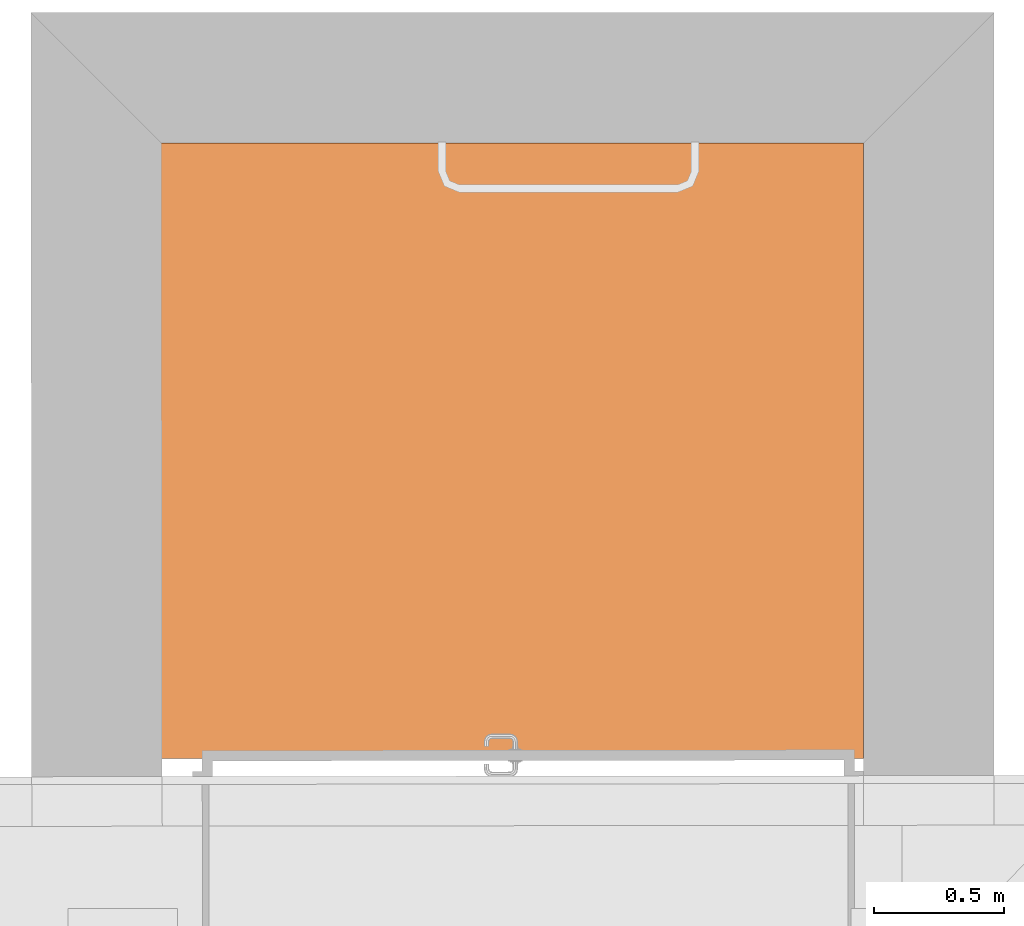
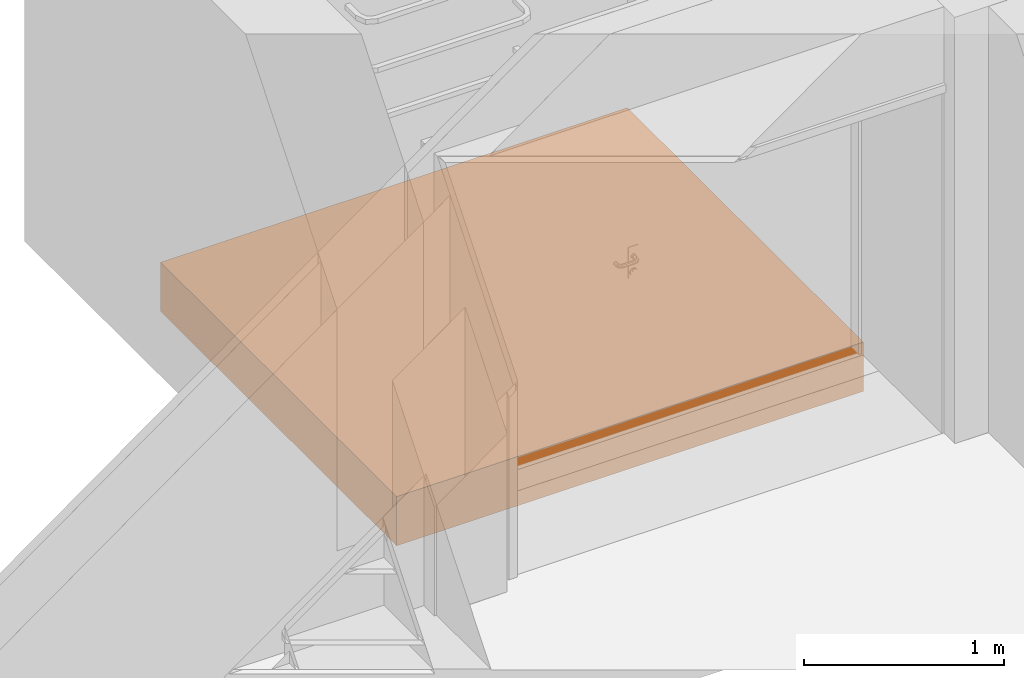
# One storey, part 117 of 127: 1 proxy.
"""IFC2X3 building model written with IfcOpenShell, lengths in millimetres."""

from ifc_helpers import new_model, entity, si_unit, converted_unit, derived_unit, money_unit, direction, frame, origin_with_axes, place, context, subcontext, project, spatial, polyline, outline, extrude, material, type_object, element, save


model = new_model("IFC2X3")

# Units and contexts
model_context = context("Model", 3, precision=1e-05, world=origin_with_axes(), true_north=direction((0.0, 1.0)))
body_context = subcontext(model_context, "Body", "Model", "MODEL_VIEW")
ifc_project = project(units=[si_unit("LENGTHUNIT", "METRE", prefix="MILLI"), si_unit("AREAUNIT", "SQUARE_METRE"), si_unit("VOLUMEUNIT", "CUBIC_METRE"), converted_unit("PLANEANGLEUNIT", "DEGREE", entity("IfcPlaneAngleMeasure", 0.0174532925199), si_unit("PLANEANGLEUNIT", "RADIAN"), dimensions=[0, 0, 0, 0, 0, 0, 0]), si_unit("SOLIDANGLEUNIT", "STERADIAN"), money_unit("EUR"), converted_unit("TIMEUNIT", "Year", entity("IfcTimeMeasure", 31556926.0), si_unit("TIMEUNIT", "SECOND"), dimensions=[0, 0, 1, 0, 0, 0, 0]), si_unit("MASSUNIT", "GRAM", prefix="KILO"), si_unit("THERMODYNAMICTEMPERATUREUNIT", "DEGREE_CELSIUS"), si_unit("LUMINOUSINTENSITYUNIT", "LUMEN"), si_unit("ENERGYUNIT", "JOULE", prefix="MEGA"), derived_unit("THERMALCONDUCTANCEUNIT", [(si_unit("POWERUNIT", "WATT"), 1), (si_unit("LENGTHUNIT", "METRE"), -1), (si_unit("THERMODYNAMICTEMPERATUREUNIT", "KELVIN"), -1)]), derived_unit("SPECIFICHEATCAPACITYUNIT", [(si_unit("ENERGYUNIT", "JOULE"), 1), (si_unit("MASSUNIT", "GRAM", prefix="KILO"), -1), (si_unit("THERMODYNAMICTEMPERATUREUNIT", "KELVIN"), -1)]), derived_unit("MASSDENSITYUNIT", [(si_unit("MASSUNIT", "GRAM", prefix="KILO"), 1), (si_unit("VOLUMEUNIT", "CUBIC_METRE"), -1)])], contexts=[model_context])

# Site, building, storey
site_placement = place(None, origin_with_axes())
site = spatial("IfcSite", under=ifc_project, at=site_placement, Name="Site", CompositionType="ELEMENT")
building_placement = place(site_placement, origin_with_axes())
building = spatial("IfcBuilding", under=site, at=building_placement, Name="Building", CompositionType="ELEMENT")
storey_placement = place(building_placement, origin_with_axes())
storey = spatial("IfcBuildingStorey", under=building, at=storey_placement, Name="1 KORRUS", CompositionType="ELEMENT", Elevation=0.0)

# Proxy
ifc_material = material(Name="Betoon - Ol.Olev konstruktsioon")
building_element_proxy_type = type_object("IfcBuildingElementProxyType", Name="BET.PORAND", PredefinedType="NOTDEFINED")
proxy_placement = place(storey_placement, frame((40096.5267234, 72086.75612, 0.0), z_axis=(0.0, 0.0, 1.0), x_axis=(1.0, 0.0, 0.0)))
element("IfcBuildingElementProxy", 1, at=proxy_placement, inside=storey, type_object=building_element_proxy_type, material=ifc_material, Name="Betoon - Ol.Olev konstruktsioon;  Objekti nimi:", context=body_context, shape_type="SweptSolid", body=[
    extrude(outline(polyline([(0.0, 0.0), (2693.90845648, 0.0), (2693.90845648, 2358.78116218), (0.0, 2358.78116218), (0.0, 0.0)])), frame((0.0, 0.0, -300.0), z_axis=(0.0, 0.0, 1.0), x_axis=(1.0, 0.0, 0.0)), (0.0, 0.0, 1.0), 300.0),
])

save(model, "model.ifc")
